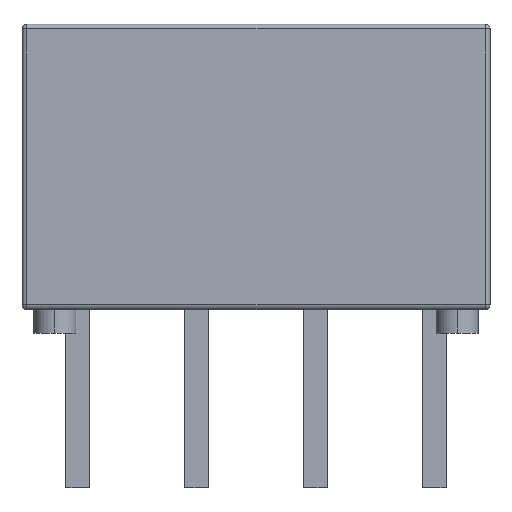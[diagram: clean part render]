
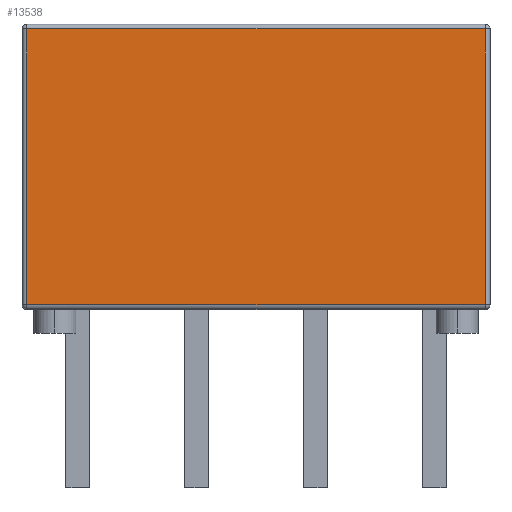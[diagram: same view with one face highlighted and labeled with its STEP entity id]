
A CAD part, top view. The second image highlights one B-rep face of the part: STEP entity #13538.
In plain terms, the highlighted planar face has unit normal (0, 0, 1).
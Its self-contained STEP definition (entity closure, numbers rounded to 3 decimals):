
#1816 = CARTESIAN_POINT ( 'NONE',  ( 4.9, 0.1, 1.85 ) ) ;
#1934 = DIRECTION ( 'NONE',  ( 0., 1., 0. ) ) ;
#1935 = VECTOR ( 'NONE', #1934, 1000. ) ;
#1936 = CARTESIAN_POINT ( 'NONE',  ( 4.9, 6.092, 1.85 ) ) ;
#1937 = LINE ( 'NONE', #1936, #1935 ) ;
#1938 = CARTESIAN_POINT ( 'NONE',  ( -4.9, 5.992, 1.85 ) ) ;
#1966 = AXIS2_PLACEMENT_3D ( 'NONE', #2026, #2025, #2024 ) ;
#1967 = PLANE ( 'NONE',  #1966 ) ;
#1968 = FACE_OUTER_BOUND ( 'NONE', #13548, .T. ) ;
#1982 = CARTESIAN_POINT ( 'NONE',  ( -4.9, 0.1, 1.85 ) ) ;
#2009 = CARTESIAN_POINT ( 'NONE',  ( 4.9, 5.992, 1.85 ) ) ;
#2010 = DIRECTION ( 'NONE',  ( 1., 0., 0. ) ) ;
#2011 = VECTOR ( 'NONE', #2010, 1000. ) ;
#2012 = CARTESIAN_POINT ( 'NONE',  ( 5., 0.1, 1.85 ) ) ;
#2013 = LINE ( 'NONE', #2012, #2011 ) ;
#2014 = DIRECTION ( 'NONE',  ( 0., -1., 0. ) ) ;
#2015 = VECTOR ( 'NONE', #2014, 1000. ) ;
#2016 = CARTESIAN_POINT ( 'NONE',  ( -4.9, 6.092, 1.85 ) ) ;
#2017 = LINE ( 'NONE', #2016, #2015 ) ;
#2019 = DIRECTION ( 'NONE',  ( -1., 0., 0. ) ) ;
#2020 = VECTOR ( 'NONE', #2019, 1000. ) ;
#2021 = CARTESIAN_POINT ( 'NONE',  ( -5., 5.992, 1.85 ) ) ;
#2022 = LINE ( 'NONE', #2021, #2020 ) ;
#2024 = DIRECTION ( 'NONE',  ( -1., 0., 0. ) ) ;
#2025 = DIRECTION ( 'NONE',  ( 0., 0., -1. ) ) ;
#2026 = CARTESIAN_POINT ( 'NONE',  ( 5., 6.092, 1.85 ) ) ;
#13489 = VERTEX_POINT ( 'NONE', #1816 ) ;
#13513 = ORIENTED_EDGE ( 'NONE', *, *, #13519, .T. ) ;
#13518 = VERTEX_POINT ( 'NONE', #1938 ) ;
#13519 = EDGE_CURVE ( 'NONE', #13489, #13552, #1937, .T. ) ;
#13526 = VERTEX_POINT ( 'NONE', #1982 ) ;
#13528 = ORIENTED_EDGE ( 'NONE', *, *, #13547, .T. ) ;
#13538 = ADVANCED_FACE ( 'NONE', ( #1968 ), #1967, .F. ) ;
#13545 = EDGE_CURVE ( 'NONE', #13552, #13518, #2022, .T. ) ;
#13547 = EDGE_CURVE ( 'NONE', #13518, #13526, #2017, .T. ) ;
#13548 = EDGE_LOOP ( 'NONE', ( #13549, #13528, #13550, #13513 ) ) ;
#13549 = ORIENTED_EDGE ( 'NONE', *, *, #13545, .T. ) ;
#13550 = ORIENTED_EDGE ( 'NONE', *, *, #13551, .T. ) ;
#13551 = EDGE_CURVE ( 'NONE', #13526, #13489, #2013, .T. ) ;
#13552 = VERTEX_POINT ( 'NONE', #2009 ) ;
